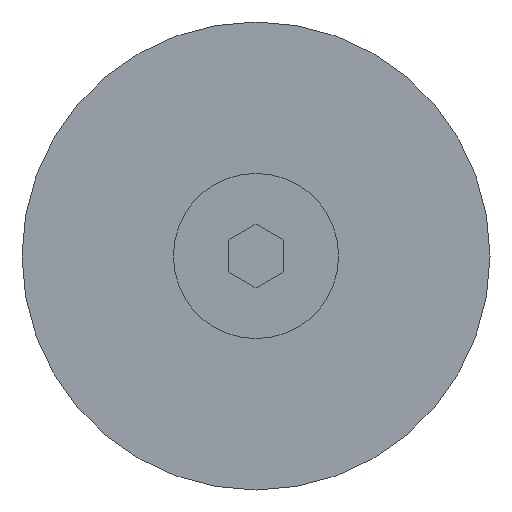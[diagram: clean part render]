
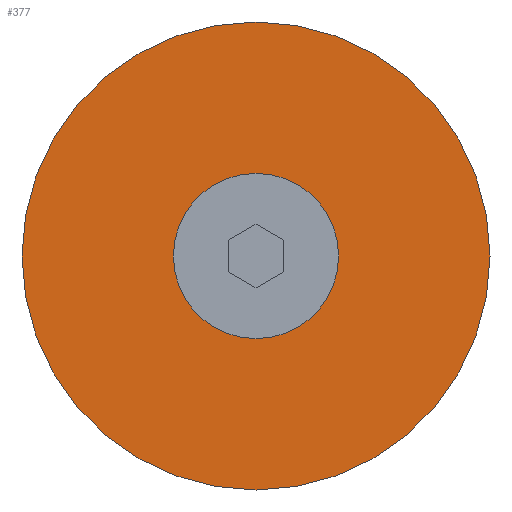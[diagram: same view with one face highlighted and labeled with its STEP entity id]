
A CAD part, front view. The second image highlights one B-rep face of the part: STEP entity #377.
In plain terms, the highlighted planar face has unit normal (0, -1, 0).
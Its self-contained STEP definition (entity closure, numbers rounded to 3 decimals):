
#32=CIRCLE('',#420,17.);
#33=CIRCLE('',#422,6.);
#59=ORIENTED_EDGE('',*,*,#147,.F.);
#60=ORIENTED_EDGE('',*,*,#146,.T.);
#146=EDGE_CURVE('',#192,#192,#32,.T.);
#147=EDGE_CURVE('',#193,#193,#33,.T.);
#192=VERTEX_POINT('',#594);
#193=VERTEX_POINT('',#597);
#293=EDGE_LOOP('',(#59));
#294=EDGE_LOOP('',(#60));
#329=FACE_BOUND('',#293,.T.);
#330=FACE_BOUND('',#294,.T.);
#355=PLANE('',#421);
#377=ADVANCED_FACE('',(#329,#330),#355,.F.);
#420=AXIS2_PLACEMENT_3D('',#593,#480,#481);
#421=AXIS2_PLACEMENT_3D('',#595,#482,#483);
#422=AXIS2_PLACEMENT_3D('',#596,#484,#485);
#480=DIRECTION('',(0.,-1.,0.));
#481=DIRECTION('',(0.,0.,-1.));
#482=DIRECTION('',(0.,1.,0.));
#483=DIRECTION('',(0.,0.,1.));
#484=DIRECTION('',(0.,-1.,0.));
#485=DIRECTION('',(0.,0.,-1.));
#593=CARTESIAN_POINT('',(0.,-20.5,0.));
#594=CARTESIAN_POINT('',(0.,-20.5,-17.));
#595=CARTESIAN_POINT('',(17.,-20.5,0.));
#596=CARTESIAN_POINT('',(0.,-20.5,0.));
#597=CARTESIAN_POINT('',(0.,-20.5,-6.));
